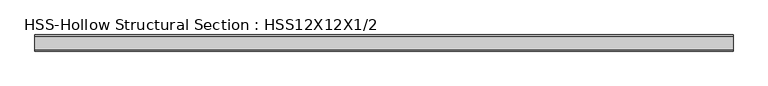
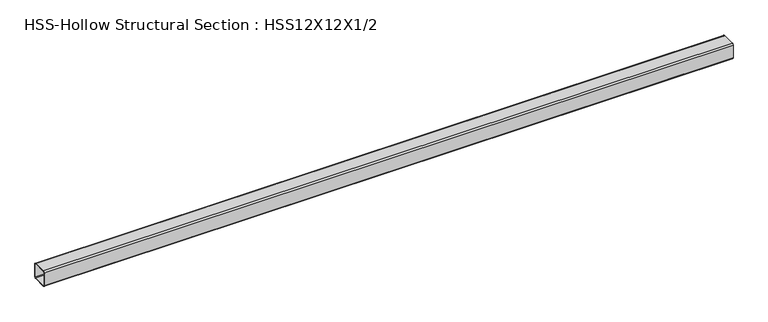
"""IFC4 building model written with IfcOpenShell, lengths in millimetres: beam geometry, HSS-Hollow Structural Section : HSS12X12X1/2."""

from ifc_helpers import new_model, si_unit, point, frame, frame_2d, origin, place, context, project, spatial, polyline, circle_curve, trimmed, segment, composite_curve, outline, extrude, source, transform, mapped, element, save


def hss_hollow_structural_section_hss12x12x1_2_65790d26(model_context):
    return source(origin(), model_context, "Body", "SweptSolid", [
        extrude(outline(composite_curve([segment(polyline([(152.4, 128.778), (152.4, -128.778)]), True, "CONTINUOUS"), segment(trimmed(circle_curve(frame_2d((128.778, -128.778)), 23.622), [point((152.4, -128.778))], [point((128.778, -152.4))], False, "CARTESIAN"), True, "CONTINUOUS"), segment(polyline([(128.778, -152.4), (-128.778, -152.4)]), True, "CONTINUOUS"), segment(trimmed(circle_curve(frame_2d((-128.778, -128.778)), 23.622), [point((-128.778, -152.4))], [point((-152.4, -128.778))], False, "CARTESIAN"), True, "CONTINUOUS"), segment(polyline([(-152.4, -128.778), (-152.4, 128.778)]), True, "CONTINUOUS"), segment(trimmed(circle_curve(frame_2d((-128.778, 128.778)), 23.622), [point((-152.4, 128.778))], [point((-128.778, 152.4))], False, "CARTESIAN"), True, "CONTINUOUS"), segment(polyline([(-128.778, 152.4), (128.778, 152.4)]), True, "CONTINUOUS"), segment(trimmed(circle_curve(frame_2d((128.778, 128.778)), 23.622), [point((128.778, 152.4))], [point((152.4, 128.778))], False, "CARTESIAN"), True, "CONTINUOUS")], self_intersect=False), holes=[composite_curve([segment(trimmed(circle_curve(frame_2d((-128.778, 128.778)), 11.811), [point((-128.778, 140.589))], [point((-140.589, 128.778))], True, "CARTESIAN"), True, "CONTINUOUS"), segment(polyline([(-140.589, 128.778), (-140.589, -128.778)]), True, "CONTINUOUS"), segment(trimmed(circle_curve(frame_2d((-128.778, -128.778)), 11.811), [point((-140.589, -128.778))], [point((-128.778, -140.589))], True, "CARTESIAN"), True, "CONTINUOUS"), segment(polyline([(-128.778, -140.589), (128.778, -140.589)]), True, "CONTINUOUS"), segment(trimmed(circle_curve(frame_2d((128.778, -128.778)), 11.811), [point((128.778, -140.589))], [point((140.589, -128.778))], True, "CARTESIAN"), True, "CONTINUOUS"), segment(polyline([(140.589, -128.778), (140.589, 128.778)]), True, "CONTINUOUS"), segment(trimmed(circle_curve(frame_2d((128.778, 128.778)), 11.811), [point((140.589, 128.778))], [point((128.778, 140.589))], True, "CARTESIAN"), True, "CONTINUOUS"), segment(polyline([(128.778, 140.589), (-128.778, 140.589)]), True, "CONTINUOUS")], self_intersect=False)]), frame((-6674.2846052, 0.0, 0.0), z_axis=(1.0, 0.0, 0.0), x_axis=(0.0, 1.0, 0.0)), (0.0, 0.0, 1.0), 13185.2516926),
    ])


if __name__ == "__main__":
    model = new_model("IFC4")
    model_context = context("Model", 3, world=origin())
    ifc_project = project(units=[si_unit("LENGTHUNIT", "METRE", prefix="MILLI")], contexts=[model_context])
    site = spatial("IfcSite", under=ifc_project)
    building = spatial("IfcBuilding", under=site)
    placement = place(None, origin())
    hss_hollow_structural_section_hss12x12x1_2_shape = hss_hollow_structural_section_hss12x12x1_2_65790d26(model_context)
    element("IfcBeam", 1, ObjectType="HSS-Hollow Structural Section : HSS12X12X1/2", at=placement, inside=building, context=model_context, shape_type="MappedRepresentation", body=[
        mapped(hss_hollow_structural_section_hss12x12x1_2_shape, transform((0.0, 0.0, 0.0), x_axis=(1.0, 0.0, 0.0), y_axis=(0.0, 1.0, 0.0), z_axis=(0.0, 0.0, 1.0))),
    ])
    save(model, "model.ifc")
